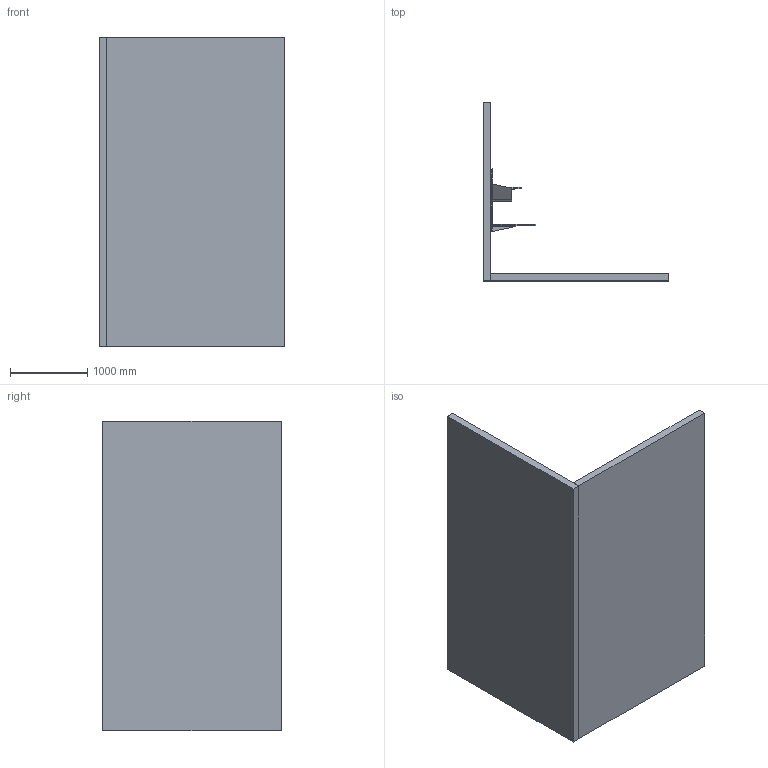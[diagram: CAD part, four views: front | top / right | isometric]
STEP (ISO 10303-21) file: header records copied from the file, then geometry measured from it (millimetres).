
FILE_DESCRIPTION(/* description */ (''),/* implementation_level */ '2;1');
FILE_NAME(/* name */ 'C:\Users\andre\OneDrive\Documents\SQA\Assignment_Item Writer\_Item3\V1\STEP Files\Product Display Stand\Product Display Stand_Walls and Floor.stp',/* time_stamp */ '2019-11-06T17:47:50+00:00',/* author */ ('andre'),/* organization */ (''),/* preprocessor_version */ 'ST-DEVELOPER v16.13',/* originating_system */ 'Autodesk Inventor 2018',/* authorisation */ '');
FILE_SCHEMA (('AUTOMOTIVE_DESIGN { 1 0 10303 214 3 1 1 }'));
Length unit declared in the file: millimetre
Products named in the file (8): Product Display Stand_Walls and Floor; Display Board; Display Surface; Platform; Back Stand; Display Surface2; Wall and Floor; Floor
Assembly tree (8 placements, depth 3):
  Product Display Stand_Walls and Floor
    Display Board
    Display Surface
    Platform
    Back Stand
    Display Surface2
    Wall and Floor
      Floor  x2
Bounding box: 2400 x 2300 x 4000 mm (x, y, z)
Volume: 1861563565.8 mm3; surface area: 42744294.8 mm2
Topology: 7 solids, 7 shells, 126 faces, 302 edges, 196 vertices
Faces by surface type: plane 106, cylinder 16, cone 4
Full cylindrical faces by diameter (mm): 5 x4, 10 x4, 20 x4
Entity records: 3658 total; most frequent: CARTESIAN_POINT 590, DIRECTION 578, ORIENTED_EDGE 540, EDGE_CURVE 270, LINE 234, VECTOR 234, VERTEX_POINT 184, AXIS2_PLACEMENT_3D 172
